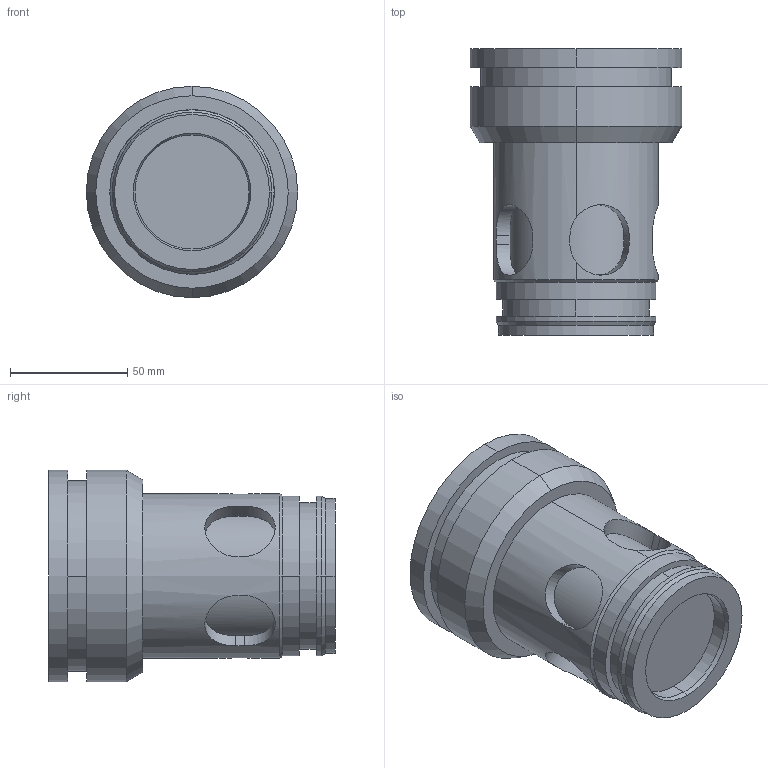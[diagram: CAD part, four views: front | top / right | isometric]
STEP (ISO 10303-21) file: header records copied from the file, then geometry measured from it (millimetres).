
FILE_DESCRIPTION (( 'STEP AP214' ), '1' );
FILE_NAME ('C.EN50-11.STEP', '2019-03-12T08:01:17', ( '' ), ( '' ), 'SwSTEP 2.0', 'SolidWorks 2018', '' );
FILE_SCHEMA (( 'AUTOMOTIVE_DESIGN' ));
Length unit declared in the file: millimetre
Products named in the file (1): C.EN50-11
Bounding box: 90 x 121.9 x 90 mm (x, y, z)
Volume: 492322.1 mm3; surface area: 49327 mm2
Topology: 1 solids, 1 shells, 66 faces, 149 edges, 96 vertices
Faces by surface type: cylinder 38, plane 20, cone 8
Entity records: 3550 total; most frequent: CARTESIAN_POINT 1322, DIRECTION 307, ORIENTED_EDGE 298, EDGE_CURVE 149, AXIS2_PLACEMENT_3D 117, VERTEX_POINT 96, EDGE_LOOP 77, LINE 73
